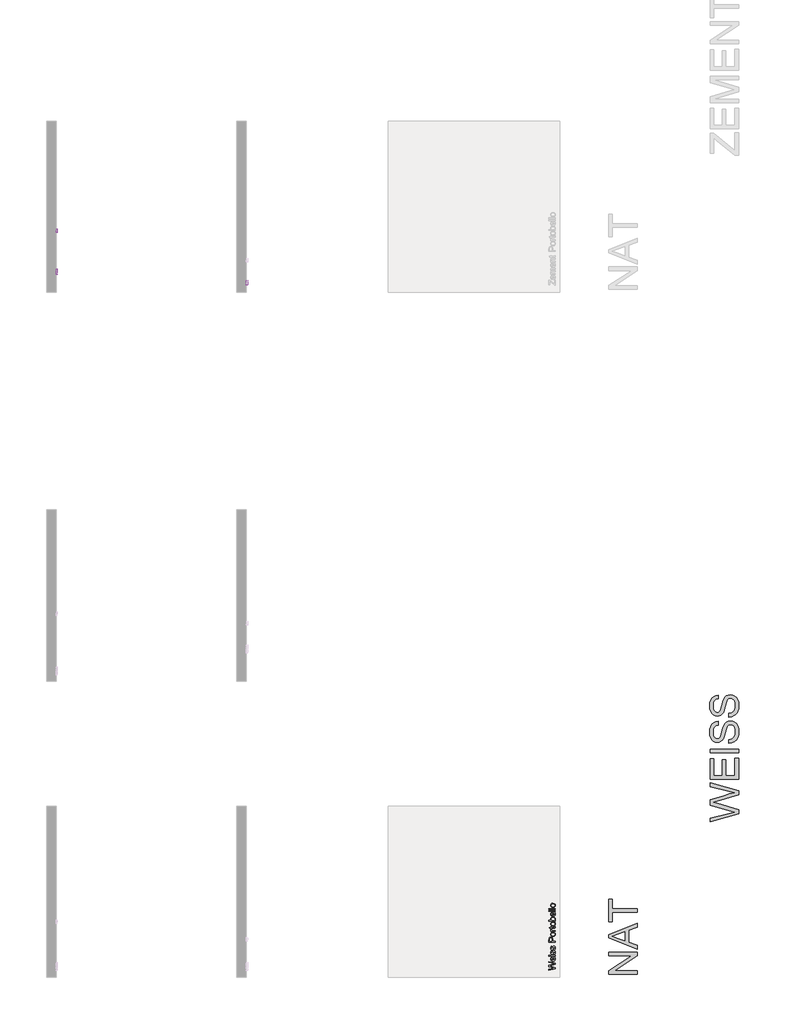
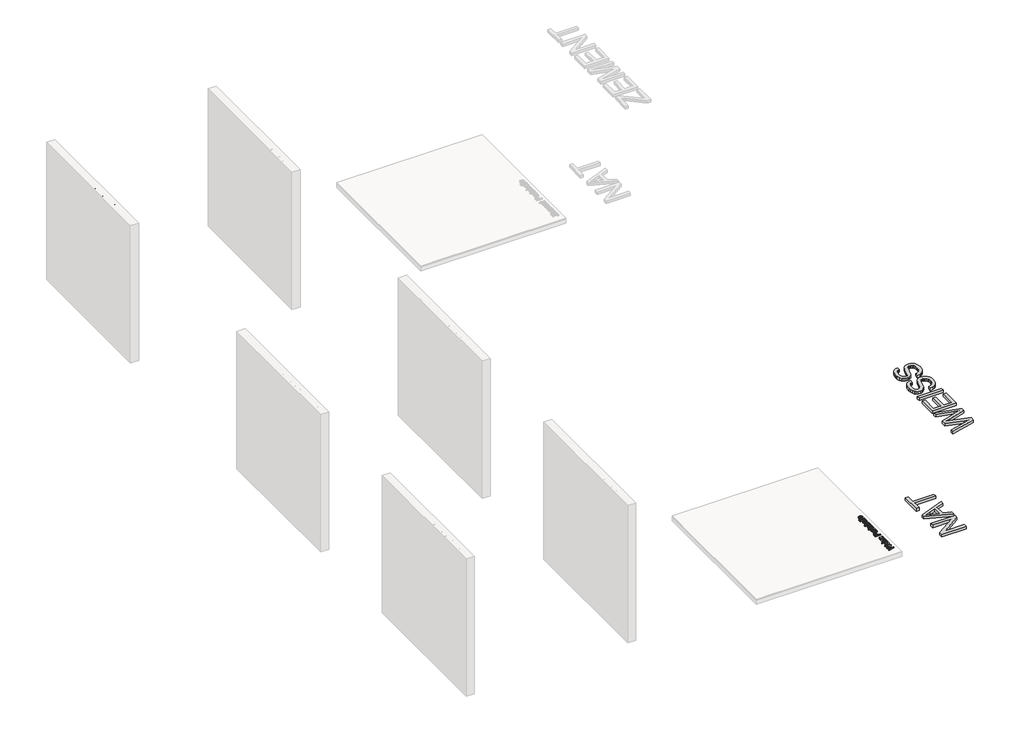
# One storey, part 9 of 12: 7 proxies.
"""IFC4 building model written with IfcOpenShell, lengths in millimetres."""

from ifc_helpers import new_model, si_unit, frame, origin, origin_with_axes, place, context, project, spatial, polyline, outline, extrude, element, save

model = new_model("IFC4")

# Units and contexts
model_context = context("Model", 3, world=origin())
ifc_project = project(units=[si_unit("LENGTHUNIT", "METRE", prefix="MILLI")], contexts=[model_context])

# Site, building, storey
site = spatial("IfcSite", under=ifc_project)
building = spatial("IfcBuilding", under=site)
storey = spatial("IfcBuildingStorey", under=building, Name="PORTOBELLO - SHOWROOM", Elevation=0.0)

# Proxies
placement = place(None, origin())
element("IfcBuildingElementProxy", 1, Name="10mm Arial", ObjectType="10mm Arial", at=placement, inside=storey, context=model_context, shape_type="SweptSolid", body=[
    extrude(outline(polyline([(12674.0162318, 2518.9109306), (12674.0162318, 2531.9339532), (12725.3970838, 2594.8417744), (12735.1582194, 2606.8102019), (12680.2947512, 2606.8102019), (12680.2947512, 2619.3672407), (12750.9280943, 2619.3672407), (12750.9280943, 2606.8102019), (12694.6912, 2537.9672179), (12689.3936992, 2531.4679693), (12752.4977241, 2531.4679693), (12752.4977241, 2518.9109306), (12674.0162318, 2518.9109306)])), frame((34348.7766485, 0.0, 0.0), z_axis=(1.0, 0.0, 0.0), x_axis=(0.0, 1.0, 0.0)), (0.0, 0.0, 1.0), 20.0),
    extrude(outline(polyline([(12816.705395, 2540.8857484), (12829.0171791, 2539.3161186), (12824.5811354, 2530.0393609), (12817.5024727, 2523.1047853), (12807.9406065, 2518.7821719), (12796.0549524, 2517.3413007), (12781.3212785, 2519.8275699), (12769.9843816, 2527.2863773), (12762.7555004, 2539.2333451), (12760.3458734, 2555.1840953), (12762.7800259, 2571.67134), (12770.0824835, 2584.0015182), (12781.2660962, 2591.6902519), (12795.3437138, 2594.2531632), (12808.9829388, 2591.6963833), (12819.8814429, 2584.0260437), (12827.0275507, 2571.720391), (12829.4095866, 2555.2576717), (12829.3360102, 2551.8731573), (12772.9029121, 2551.8731573), (12775.0764816, 2542.4737723), (12780.125662, 2535.5637222), (12787.4127912, 2531.3146852), (12796.300207, 2529.8983395), (12808.6119911, 2532.5225644), (12816.705395, 2540.8857484)]), holes=[polyline([(12772.9029121, 2564.4301961), (12816.8525478, 2564.4301961), (12811.8248272, 2575.8100125), (12804.5039755, 2580.2245964), (12795.2946629, 2581.6961244), (12779.8313564, 2576.9994976), (12774.966117, 2571.5088588), (12772.9029121, 2564.4301961)])]), frame((34348.7766485, 0.0, 0.0), z_axis=(1.0, 0.0, 0.0), x_axis=(0.0, 1.0, 0.0)), (0.0, 0.0, 1.0), 20.0),
    extrude(outline(polyline([(12841.9666254, 2518.9109306), (12841.9666254, 2592.6835333), (12854.5236641, 2592.6835333), (12854.5236641, 2580.5434275), (12863.1566283, 2590.4885041), (12875.4438869, 2594.2531632), (12888.0254512, 2590.4149277), (12894.9416327, 2579.6605107), (12904.7395565, 2590.6050001), (12917.1126542, 2594.2531632), (12926.5518931, 2592.7356499), (12933.532454, 2588.1831103), (12937.8458703, 2580.4729168), (12939.2836758, 2569.4824422), (12939.2836758, 2518.9109306), (12926.726637, 2518.9109306), (12926.726637, 2564.0868396), (12925.5616774, 2574.5714764), (12921.3432972, 2579.7340871), (12914.1695983, 2581.6961244), (12901.821026, 2576.6684038), (12898.133009, 2570.1262357), (12896.90367, 2560.5551724), (12896.90367, 2518.9109306), (12884.3466312, 2518.9109306), (12884.3466312, 2565.4847911), (12881.4403634, 2577.6494225), (12871.9122198, 2581.6961244), (12862.617068, 2578.9983231), (12856.4366505, 2571.1011229), (12854.5236641, 2556.116063), (12854.5236641, 2518.9109306), (12841.9666254, 2518.9109306)])), frame((34348.7766485, 0.0, 0.0), z_axis=(1.0, 0.0, 0.0), x_axis=(0.0, 1.0, 0.0)), (0.0, 0.0, 1.0), 20.0),
    extrude(outline(polyline([(13009.7698661, 2540.8857484), (13022.0816502, 2539.3161186), (13017.6456065, 2530.0393609), (13010.5669437, 2523.1047853), (13001.0050776, 2518.7821719), (12989.1194234, 2517.3413007), (12974.3857495, 2519.8275699), (12963.0488527, 2527.2863773), (12955.8199715, 2539.2333451), (12953.4103444, 2555.1840953), (12955.844497, 2571.67134), (12963.1469546, 2584.0015182), (12974.3305672, 2591.6902519), (12988.4081849, 2594.2531632), (13002.0474099, 2591.6963833), (13012.945914, 2584.0260437), (13020.0920217, 2571.720391), (13022.4740577, 2555.2576717), (13022.4004813, 2551.8731573), (12965.9673832, 2551.8731573), (12968.1409527, 2542.4737723), (12973.190133, 2535.5637222), (12980.4772622, 2531.3146852), (12989.3646781, 2529.8983395), (13001.6764622, 2532.5225644), (13009.7698661, 2540.8857484)]), holes=[polyline([(12965.9673832, 2564.4301961), (13009.9170189, 2564.4301961), (13004.8892983, 2575.8100125), (12997.5684466, 2580.2245964), (12988.359134, 2581.6961244), (12972.8958274, 2576.9994976), (12968.0305881, 2571.5088588), (12965.9673832, 2564.4301961)])]), frame((34348.7766485, 0.0, 0.0), z_axis=(1.0, 0.0, 0.0), x_axis=(0.0, 1.0, 0.0)), (0.0, 0.0, 1.0), 20.0),
    extrude(outline(polyline([(13035.0310964, 2518.9109306), (13035.0310964, 2592.6835333), (13047.5881352, 2592.6835333), (13047.5881352, 2582.3828375), (13057.1898553, 2591.2855817), (13070.298717, 2594.2531632), (13082.15678, 2591.8619302), (13090.2501839, 2585.5834108), (13094.014843, 2576.3495727), (13094.6770306, 2564.2094669), (13094.6770306, 2518.9109306), (13082.1199918, 2518.9109306), (13082.1199918, 2562.5172097), (13080.6729893, 2573.627246), (13075.5594296, 2579.5010952), (13066.9387281, 2581.6961244), (13053.3148316, 2576.7665057), (13049.0198093, 2569.6234636), (13047.5881352, 2558.0535748), (13047.5881352, 2518.9109306), (13035.0310964, 2518.9109306)])), frame((34348.7766485, 0.0, 0.0), z_axis=(1.0, 0.0, 0.0), x_axis=(0.0, 1.0, 0.0)), (0.0, 0.0, 1.0), 20.0),
    extrude(outline(polyline([(13138.6266663, 2529.3833047), (13140.1962961, 2518.5430486), (13130.8030425, 2517.3413007), (13120.2816174, 2519.4259654), (13115.0331676, 2524.8951443), (13113.5125887, 2539.1444403), (13113.5125887, 2580.1264946), (13104.0948097, 2580.1264946), (13104.0948097, 2592.6835333), (13113.5125887, 2592.6835333), (13113.5125887, 2610.6116492), (13126.0696275, 2617.9938146), (13126.0696275, 2592.6835333), (13138.6266663, 2592.6835333), (13138.6266663, 2580.1264946), (13126.0696275, 2580.1264946), (13126.0696275, 2539.5123223), (13126.7318151, 2533.0375992), (13128.8777934, 2530.7444681), (13133.1574873, 2529.8983395), (13138.6266663, 2529.3833047)])), frame((34348.7766485, 0.0, 0.0), z_axis=(1.0, 0.0, 0.0), x_axis=(0.0, 1.0, 0.0)), (0.0, 0.0, 1.0), 20.0),
    extrude(outline(polyline([(13191.994081, 2518.9109306), (13191.994081, 2619.3672407), (13204.5511198, 2619.3672407), (13204.5511198, 2531.4679693), (13254.7792749, 2531.4679693), (13254.7792749, 2518.9109306), (13191.994081, 2518.9109306)])), frame((34348.7766485, 0.0, 0.0), z_axis=(1.0, 0.0, 0.0), x_axis=(0.0, 1.0, 0.0)), (0.0, 0.0, 1.0), 20.0),
    extrude(outline(polyline([(34368.7766485, 13279.8933524), (34368.7766485, 13267.3363136), (34348.7766485, 13267.3363136), (34348.7766485, 13279.8933524), (34368.7766485, 13279.8933524)])), frame((0.0, 0.0, 2606.8102019), z_axis=(0.0, 0.0, 1.0), x_axis=(1.0, 0.0, 0.0)), (0.0, 0.0, 1.0), 12.5570388),
    extrude(outline(polyline([(34368.7766485, 13279.8933524), (34368.7766485, 13267.3363136), (34348.7766485, 13267.3363136), (34348.7766485, 13279.8933524), (34368.7766485, 13279.8933524)])), frame((0.0, 0.0, 2518.9109306), z_axis=(0.0, 0.0, 1.0), x_axis=(1.0, 0.0, 0.0)), (0.0, 0.0, 1.0), 73.7726028),
    extrude(outline(polyline([(13298.7289106, 2518.9109306), (13298.7289106, 2592.6835333), (13311.2859493, 2592.6835333), (13311.2859493, 2582.3828375), (13320.8876694, 2591.2855817), (13333.9965312, 2594.2531632), (13345.8545941, 2591.8619302), (13353.947998, 2585.5834108), (13357.7126571, 2576.3495727), (13358.3748447, 2564.2094669), (13358.3748447, 2518.9109306), (13345.8178059, 2518.9109306), (13345.8178059, 2562.5172097), (13344.3708034, 2573.627246), (13339.2572437, 2579.5010952), (13330.6365423, 2581.6961244), (13317.0126457, 2576.7665057), (13312.7176234, 2569.6234636), (13311.2859493, 2558.0535748), (13311.2859493, 2518.9109306), (13298.7289106, 2518.9109306)])), frame((34348.7766485, 0.0, 0.0), z_axis=(1.0, 0.0, 0.0), x_axis=(0.0, 1.0, 0.0)), (0.0, 0.0, 1.0), 20.0),
    extrude(outline(polyline([(13427.2914051, 2540.8857484), (13439.6031893, 2539.3161186), (13435.1671455, 2530.0393609), (13428.0884828, 2523.1047853), (13418.5266166, 2518.7821719), (13406.6409625, 2517.3413007), (13391.9072886, 2519.8275699), (13380.5703918, 2527.2863773), (13373.3415106, 2539.2333451), (13370.9318835, 2555.1840953), (13373.366036, 2571.67134), (13380.6684936, 2584.0015182), (13391.8521063, 2591.6902519), (13405.929724, 2594.2531632), (13419.5689489, 2591.6963833), (13430.467453, 2584.0260437), (13437.6135608, 2571.720391), (13439.9955967, 2555.2576717), (13439.9220203, 2551.8731573), (13383.4889223, 2551.8731573), (13385.6624917, 2542.4737723), (13390.7116721, 2535.5637222), (13397.9988013, 2531.3146852), (13406.8862171, 2529.8983395), (13419.1980013, 2532.5225644), (13427.2914051, 2540.8857484)]), holes=[polyline([(13383.4889223, 2564.4301961), (13427.4385579, 2564.4301961), (13422.4108373, 2575.8100125), (13415.0899856, 2580.2245964), (13405.880673, 2581.6961244), (13390.4173665, 2576.9994976), (13385.5521271, 2571.5088588), (13383.4889223, 2564.4301961)])]), frame((34348.7766485, 0.0, 0.0), z_axis=(1.0, 0.0, 0.0), x_axis=(0.0, 1.0, 0.0)), (0.0, 0.0, 1.0), 20.0),
])
element("IfcBuildingElementProxy", 2, Name="10mm Arial", ObjectType="10mm Arial", at=placement, inside=storey, context=model_context, shape_type="SweptSolid", body=[
    extrude(outline(polyline([(42219.9517231, 1908.5020085), (42119.495413, 1881.1070626), (42119.495413, 1894.0565088), (42185.5179684, 1909.949011), (42205.8986309, 1914.8541043), (42187.8724131, 1920.1025541), (42119.495413, 1940.0172328), (42119.495413, 1958.6811127), (42169.0613804, 1973.1511378), (42205.8986309, 1983.9178175), (42186.1065796, 1988.675758), (42119.495413, 2004.715413), (42119.495413, 2017.6648592), (42219.9517231, 1990.2453878), (42219.9517231, 1976.8299578), (42142.4512495, 1952.7459498), (42131.6355188, 1949.3859609), (42144.6585414, 1945.6090391), (42219.9517231, 1923.6587467), (42219.9517231, 1908.5020085)])), frame((0.0, 0.0, 17.0), z_axis=(0.0, 0.0, 1.0), x_axis=(1.0, 0.0, 0.0)), (0.0, 0.0, 1.0), 20.0),
    extrude(outline(polyline([(42197.9769053, 2080.3029003), (42199.5465351, 2092.6146844), (42208.8232928, 2088.1786406), (42215.7578684, 2081.0999779), (42220.0804818, 2071.5381117), (42221.521353, 2059.6524576), (42219.0350838, 2044.9187837), (42211.5762764, 2033.5818869), (42199.6293086, 2026.3530057), (42183.6785584, 2023.9433786), (42167.1913136, 2026.3775311), (42154.8611354, 2033.6799887), (42147.1724017, 2044.8636014), (42144.6094905, 2058.9412191), (42147.1662704, 2072.580444), (42154.83661, 2083.4789482), (42167.1422627, 2090.6250559), (42183.604982, 2093.0070918), (42186.9894963, 2092.9335154), (42186.9894963, 2036.5004174), (42196.3888813, 2038.6739868), (42203.2989315, 2043.7231672), (42207.5479685, 2051.0102964), (42208.9643142, 2059.8977123), (42206.3400893, 2072.2094964), (42197.9769053, 2080.3029003)]), holes=[polyline([(42174.4324576, 2036.5004174), (42174.4324576, 2080.4500531), (42163.0526412, 2075.4223325), (42158.6380572, 2068.1014808), (42157.1665293, 2058.8921681), (42161.8631561, 2043.4288616), (42167.3537948, 2038.5636222), (42174.4324576, 2036.5004174)])]), frame((0.0, 0.0, 17.0), z_axis=(0.0, 0.0, 1.0), x_axis=(1.0, 0.0, 0.0)), (0.0, 0.0, 1.0), 20.0),
    extrude(outline(polyline([(42132.0524517, 2105.5641306), (42119.495413, 2105.5641306), (42119.495413, 2118.1211694), (42132.0524517, 2118.1211694), (42132.0524517, 2105.5641306)])), frame((0.0, 0.0, 17.0), z_axis=(0.0, 0.0, 1.0), x_axis=(1.0, 0.0, 0.0)), (0.0, 0.0, 1.0), 20.0),
    extrude(outline(polyline([(42219.9517231, 2105.5641306), (42146.1791203, 2105.5641306), (42146.1791203, 2118.1211694), (42219.9517231, 2118.1211694), (42219.9517231, 2105.5641306)])), frame((0.0, 0.0, 17.0), z_axis=(0.0, 0.0, 1.0), x_axis=(1.0, 0.0, 0.0)), (0.0, 0.0, 1.0), 20.0),
    extrude(outline(polyline([(42197.9769053, 2132.247838), (42196.4072754, 2144.8048768), (42205.7269526, 2150.6174123), (42208.9643142, 2163.9347405), (42205.9967328, 2176.7370339), (42199.0315003, 2180.9063632), (42193.3906431, 2176.7125085), (42189.809925, 2163.7875877), (42183.6662957, 2144.8784532), (42176.4925967, 2136.6256337), (42166.3635791, 2133.8174678), (42157.0071137, 2136.0738107), (42149.8579403, 2142.2297028), (42146.1423321, 2150.2127421), (42144.6094905, 2161.01621), (42147.0742999, 2176.2955755), (42153.7452267, 2186.0076602), (42165.0146785, 2190.3241423), (42166.5843083, 2177.7671035), (42159.6558641, 2173.0459512), (42157.1665293, 2161.9972287), (42159.5454995, 2149.9797502), (42165.0882549, 2146.3745066), (42168.7425494, 2147.87056), (42171.5139271, 2152.5549241), (42174.1872029, 2163.3706548), (42180.0978403, 2181.8015427), (42186.7932926, 2190.3609305), (42197.7071251, 2193.463402), (42209.7246036, 2189.8213702), (42218.4434069, 2179.3122079), (42221.521353, 2163.7630622), (42220.0375622, 2151.1017902), (42215.5861901, 2141.8618208), (42208.2162875, 2135.693666), (42197.9769053, 2132.247838)])), frame((0.0, 0.0, 17.0), z_axis=(0.0, 0.0, 1.0), x_axis=(1.0, 0.0, 0.0)), (0.0, 0.0, 1.0), 20.0),
    extrude(outline(polyline([(42197.9769053, 2202.8811811), (42196.4072754, 2215.4382198), (42205.7269526, 2221.2507553), (42208.9643142, 2234.5680836), (42205.9967328, 2247.370377), (42199.0315003, 2251.5397063), (42193.3906431, 2247.3458515), (42189.809925, 2234.4209308), (42183.6662957, 2215.5117962), (42176.4925967, 2207.2589768), (42166.3635791, 2204.4508109), (42157.0071137, 2206.7071538), (42149.8579403, 2212.8630459), (42146.1423321, 2220.8460852), (42144.6094905, 2231.6495531), (42147.0742999, 2246.9289186), (42153.7452267, 2256.6410033), (42165.0146785, 2260.9574854), (42166.5843083, 2248.4004466), (42159.6558641, 2243.6792943), (42157.1665293, 2232.6305717), (42159.5454995, 2220.6130932), (42165.0882549, 2217.0078497), (42168.7425494, 2218.5039031), (42171.5139271, 2223.1882672), (42174.1872029, 2234.0039978), (42180.0978403, 2252.4348858), (42186.7932926, 2260.9942736), (42197.7071251, 2264.0967451), (42209.7246036, 2260.4547133), (42218.4434069, 2249.945551), (42221.521353, 2234.3964053), (42220.0375622, 2221.7351333), (42215.5861901, 2212.4951639), (42208.2162875, 2206.3270091), (42197.9769053, 2202.8811811)])), frame((0.0, 0.0, 17.0), z_axis=(0.0, 0.0, 1.0), x_axis=(1.0, 0.0, 0.0)), (0.0, 0.0, 1.0), 20.0),
])
element("IfcBuildingElementProxy", 3, Name="10mm Arial", ObjectType="10mm Arial", at=placement, inside=storey, context=model_context, shape_type="SweptSolid", body=[
    extrude(outline(polyline([(42219.9517231, 2325.5248417), (42119.495413, 2325.5248417), (42119.495413, 2362.7544996), (42120.4519061, 2377.764085), (42125.148533, 2389.9655045), (42134.8606176, 2397.8749674), (42148.5580906, 2400.8670743), (42160.3977595, 2398.846789), (42170.2631283, 2392.7859331), (42176.9217924, 2381.452102), (42179.1413471, 2363.6128909), (42179.1413471, 2338.0818805), (42219.9517231, 2338.0818805), (42219.9517231, 2325.5248417)]), holes=[polyline([(42166.5843083, 2338.0818805), (42166.5843083, 2364.3486549), (42161.9735207, 2382.8408565), (42156.4246339, 2386.9427408), (42148.999549, 2388.3100355), (42138.6007512, 2385.0849367), (42132.9108431, 2376.6113881), (42132.0524517, 2364.0543493), (42132.0524517, 2338.0818805), (42166.5843083, 2338.0818805)])]), frame((0.0, 0.0, 17.0), z_axis=(0.0, 0.0, 1.0), x_axis=(1.0, 0.0, 0.0)), (0.0, 0.0, 1.0), 20.0),
    extrude(outline(polyline([(42183.0654217, 2413.4241131), (42165.2783273, 2416.1403085), (42152.7764708, 2424.2888947), (42146.6512356, 2434.3565986), (42144.6094905, 2446.4108653), (42147.0957596, 2459.6025005), (42154.5545671, 2470.139254), (42166.3973017, 2477.0462384), (42182.0353521, 2479.3485666), (42204.378052, 2475.2773392), (42217.0209299, 2463.4192762), (42221.521353, 2446.4108653), (42219.0442809, 2433.0598146), (42211.6130646, 2422.5353238), (42199.5220096, 2415.7019158), (42183.0654217, 2413.4241131)]), holes=[polyline([(42183.0408963, 2425.9811518), (42194.4053842, 2427.4342857), (42202.5018538, 2431.7936874), (42207.3486991, 2438.3542496), (42208.9643142, 2446.4108653), (42207.339502, 2454.4306928), (42202.4650656, 2460.9789923), (42194.2612971, 2465.338394), (42182.6484888, 2466.7915278), (42171.6150946, 2465.3291969), (42163.6289896, 2460.9422041), (42158.7821444, 2454.3847075), (42157.1665293, 2446.4108653), (42158.776013, 2438.3542496), (42163.6044642, 2431.7936874), (42171.6825397, 2427.4342857), (42183.0408963, 2425.9811518)])]), frame((0.0, 0.0, 17.0), z_axis=(0.0, 0.0, 1.0), x_axis=(1.0, 0.0, 0.0)), (0.0, 0.0, 1.0), 20.0),
    extrude(outline(polyline([(42219.9517231, 2493.4752352), (42146.1791203, 2493.4752352), (42146.1791203, 2504.4626441), (42157.0929529, 2504.4626441), (42147.0375117, 2512.2617424), (42144.6094905, 2520.1098917), (42148.4845142, 2532.7159814), (42159.7417032, 2528.5221266), (42157.1665293, 2519.6929587), (42159.6436014, 2512.5928362), (42166.5107319, 2508.0678877), (42181.1769608, 2506.032274), (42219.9517231, 2506.032274), (42219.9517231, 2493.4752352)])), frame((0.0, 0.0, 17.0), z_axis=(0.0, 0.0, 1.0), x_axis=(1.0, 0.0, 0.0)), (0.0, 0.0, 1.0), 20.0),
    extrude(outline(polyline([(42209.479349, 2567.247838), (42220.3196051, 2568.8174678), (42221.521353, 2559.4242142), (42219.4366883, 2548.9027892), (42213.9675093, 2543.6543394), (42199.7182134, 2542.1337604), (42158.7361591, 2542.1337604), (42158.7361591, 2532.7159814), (42148.4845142, 2532.7159814), (42146.1791203, 2532.7159814), (42146.1791203, 2542.1337604), (42128.2510044, 2542.1337604), (42120.8688391, 2554.6907992), (42146.1791203, 2554.6907992), (42146.1791203, 2567.247838), (42158.7361591, 2567.247838), (42158.7361591, 2554.6907992), (42199.3503314, 2554.6907992), (42205.8250545, 2555.3529868), (42208.1181856, 2557.4989651), (42208.9643142, 2561.778659), (42209.479349, 2567.247838)])), frame((0.0, 0.0, 17.0), z_axis=(0.0, 0.0, 1.0), x_axis=(1.0, 0.0, 0.0)), (0.0, 0.0, 1.0), 20.0),
    extrude(outline(polyline([(42183.0654217, 2576.6656171), (42165.2783273, 2579.3818125), (42152.7764708, 2587.5303987), (42146.6512356, 2597.5981026), (42144.6094905, 2609.6523693), (42147.0957596, 2622.8440045), (42154.5545671, 2633.380758), (42166.3973017, 2640.2877424), (42182.0353521, 2642.5900706), (42204.378052, 2638.5188432), (42217.0209299, 2626.6607802), (42221.521353, 2609.6523693), (42219.0442809, 2596.3013186), (42211.6130646, 2585.7768278), (42199.5220096, 2578.9434197), (42183.0654217, 2576.6656171)]), holes=[polyline([(42183.0408963, 2589.2226558), (42194.4053842, 2590.6757897), (42202.5018538, 2595.0351914), (42207.3486991, 2601.5957536), (42208.9643142, 2609.6523693), (42207.339502, 2617.6721968), (42202.4650656, 2624.2204963), (42194.2612971, 2628.5798979), (42182.6484888, 2630.0330318), (42171.6150946, 2628.5707009), (42163.6289896, 2624.1837081), (42158.7821444, 2617.6262115), (42157.1665293, 2609.6523693), (42158.776013, 2601.5957536), (42163.6044642, 2595.0351914), (42171.6825397, 2590.6757897), (42183.0408963, 2589.2226558)])]), frame((0.0, 0.0, 17.0), z_axis=(0.0, 0.0, 1.0), x_axis=(1.0, 0.0, 0.0)), (0.0, 0.0, 1.0), 20.0),
    extrude(outline(polyline([(42219.9517231, 2669.273778), (42219.9517231, 2656.7167392), (42119.495413, 2656.7167392), (42119.495413, 2669.273778), (42156.7495963, 2669.273778), (42147.644517, 2678.0661577), (42144.6094905, 2688.9922529), (42147.34408, 2701.5738172), (42155.0328137, 2711.3349528), (42166.9889785, 2717.3314293), (42181.9617757, 2719.5019331), (42198.724932, 2717.2547872), (42211.1961316, 2710.5133496), (42218.9400476, 2700.6203897), (42221.521353, 2688.9186765), (42218.1920209, 2677.753458), (42208.2040247, 2669.273778), (42219.9517231, 2669.273778)]), holes=[polyline([(42182.5503869, 2669.273778), (42200.1106208, 2672.7073433), (42206.7508908, 2679.2862996), (42208.9643142, 2687.839556), (42207.3333707, 2695.0868313), (42202.4405401, 2701.2795116), (42194.3164794, 2705.5285486), (42182.9918453, 2706.9448943), (42171.5016643, 2705.5867966), (42163.4695741, 2701.5125035), (42158.7422905, 2695.5129613), (42157.1665293, 2688.3791163), (42158.7974728, 2681.131841), (42163.6903033, 2674.9391607), (42171.6672112, 2670.6901237), (42182.5503869, 2669.273778)])]), frame((0.0, 0.0, 17.0), z_axis=(0.0, 0.0, 1.0), x_axis=(1.0, 0.0, 0.0)), (0.0, 0.0, 1.0), 20.0),
    extrude(outline(polyline([(42197.9769053, 2785.2792338), (42199.5465351, 2797.5910179), (42208.8232928, 2793.1549742), (42215.7578684, 2786.0763114), (42220.0804818, 2776.5144453), (42221.521353, 2764.6287911), (42219.0350838, 2749.8951172), (42211.5762764, 2738.5582204), (42199.6293086, 2731.3293392), (42183.6785584, 2728.9197121), (42167.1913136, 2731.3538647), (42154.8611354, 2738.6563223), (42147.1724017, 2749.8399349), (42144.6094905, 2763.9175526), (42147.1662704, 2777.5567776), (42154.83661, 2788.4552817), (42167.1422627, 2795.6013894), (42183.604982, 2797.9834254), (42186.9894963, 2797.909849), (42186.9894963, 2741.4767509), (42196.3888813, 2743.6503204), (42203.2989315, 2748.6995007), (42207.5479685, 2755.9866299), (42208.9643142, 2764.8740458), (42206.3400893, 2777.1858299), (42197.9769053, 2785.2792338)]), holes=[polyline([(42174.4324576, 2741.4767509), (42174.4324576, 2785.4263866), (42163.0526412, 2780.398666), (42158.6380572, 2773.0778143), (42157.1665293, 2763.8685017), (42161.8631561, 2748.4051951), (42167.3537948, 2743.5399558), (42174.4324576, 2741.4767509)])]), frame((0.0, 0.0, 17.0), z_axis=(0.0, 0.0, 1.0), x_axis=(1.0, 0.0, 0.0)), (0.0, 0.0, 1.0), 20.0),
    extrude(outline(polyline([(42219.9517231, 2810.5404641), (42119.495413, 2810.5404641), (42119.495413, 2823.0975029), (42219.9517231, 2823.0975029), (42219.9517231, 2810.5404641)])), frame((0.0, 0.0, 17.0), z_axis=(0.0, 0.0, 1.0), x_axis=(1.0, 0.0, 0.0)), (0.0, 0.0, 1.0), 20.0),
    extrude(outline(polyline([(42219.9517231, 2841.933061), (42119.495413, 2841.933061), (42119.495413, 2854.4900998), (42219.9517231, 2854.4900998), (42219.9517231, 2841.933061)])), frame((0.0, 0.0, 17.0), z_axis=(0.0, 0.0, 1.0), x_axis=(1.0, 0.0, 0.0)), (0.0, 0.0, 1.0), 20.0),
    extrude(outline(polyline([(42183.0654217, 2870.1863983), (42165.2783273, 2872.9025937), (42152.7764708, 2881.0511799), (42146.6512356, 2891.1188838), (42144.6094905, 2903.1731505), (42147.0957596, 2916.3647857), (42154.5545671, 2926.9015392), (42166.3973017, 2933.8085237), (42182.0353521, 2936.1108518), (42204.378052, 2932.0396244), (42217.0209299, 2920.1815614), (42221.521353, 2903.1731505), (42219.0442809, 2889.8220998), (42211.6130646, 2879.297609), (42199.5220096, 2872.464201), (42183.0654217, 2870.1863983)]), holes=[polyline([(42183.0408963, 2882.743437), (42194.4053842, 2884.1965709), (42202.5018538, 2888.5559726), (42207.3486991, 2895.1165348), (42208.9643142, 2903.1731505), (42207.339502, 2911.192978), (42202.4650656, 2917.7412775), (42194.2612971, 2922.1006792), (42182.6484888, 2923.553813), (42171.6150946, 2922.0914821), (42163.6289896, 2917.7044893), (42158.7821444, 2911.1469928), (42157.1665293, 2903.1731505), (42158.776013, 2895.1165348), (42163.6044642, 2888.5559726), (42171.6825397, 2884.1965709), (42183.0408963, 2882.743437)])]), frame((0.0, 0.0, 17.0), z_axis=(0.0, 0.0, 1.0), x_axis=(1.0, 0.0, 0.0)), (0.0, 0.0, 1.0), 20.0),
])
element("IfcBuildingElementProxy", 4, Name="10mm Arial", ObjectType="10mm Arial", at=placement, inside=storey, context=model_context, shape_type="SweptSolid", body=[
    extrude(outline(polyline([(12681.8643811, 2518.9109306), (12681.8643811, 2619.3672407), (12719.094039, 2619.3672407), (12734.1036244, 2618.4107475), (12746.3050439, 2613.7141207), (12754.2145068, 2604.002036), (12757.2066137, 2590.3045631), (12755.1863284, 2578.4648942), (12749.1254725, 2568.5995254), (12737.7916414, 2561.9408613), (12719.9524303, 2559.7213066), (12694.4214198, 2559.7213066), (12694.4214198, 2518.9109306), (12681.8643811, 2518.9109306)]), holes=[polyline([(12694.4214198, 2572.2783453), (12720.6881943, 2572.2783453), (12739.1803959, 2576.889133), (12743.2822801, 2582.4380198), (12744.6495749, 2589.8631047), (12741.4244761, 2600.2619024), (12732.9509275, 2605.9518106), (12720.3938887, 2606.8102019), (12694.4214198, 2606.8102019), (12694.4214198, 2572.2783453)])]), frame((37348.7766485, 0.0, 0.0), z_axis=(1.0, 0.0, 0.0), x_axis=(0.0, 1.0, 0.0)), (0.0, 0.0, 1.0), 20.0),
    extrude(outline(polyline([(37368.7766485, 12785.4599509), (37368.7766485, 12772.9029121), (37348.7766485, 12772.9029121), (37348.7766485, 12785.4599509), (37368.7766485, 12785.4599509)])), frame((0.0, 0.0, 2518.9109306), z_axis=(0.0, 0.0, 1.0), x_axis=(1.0, 0.0, 0.0)), (0.0, 0.0, 1.0), 100.4563101),
    extrude(outline(polyline([(12851.3844044, 2528.3287096), (12839.2075104, 2519.8183728), (12825.7552921, 2517.3413007), (12815.2614582, 2518.8312228), (12807.5206079, 2523.300989), (12802.747339, 2530.0884118), (12801.1562494, 2538.5313036), (12803.5597451, 2548.4641175), (12809.8750526, 2555.6746046), (12818.6674323, 2559.794883), (12829.5322139, 2561.6833439), (12851.310828, 2565.9998259), (12851.3844044, 2568.7957291), (12847.9263137, 2578.0663554), (12834.0448997, 2581.6961244), (12821.3407082, 2579.280366), (12815.282918, 2570.7087155), (12802.7258792, 2572.2783453), (12808.15827, 2584.5410785), (12819.096628, 2591.7270401), (12835.6635805, 2594.2531632), (12850.8816324, 2592.0213457), (12859.4778083, 2586.4172767), (12863.3283065, 2577.8946771), (12863.9414432, 2566.9072682), (12863.9414432, 2551.2845461), (12864.5791053, 2529.4691438), (12867.0807029, 2518.9109306), (12854.5236641, 2518.9109306), (12851.3844044, 2528.3287096)]), holes=[polyline([(12851.3844044, 2553.4427872), (12831.1263692, 2549.592289), (12820.3229013, 2547.5566752), (12815.4300708, 2544.2457373), (12813.7132881, 2539.4142204), (12817.4534217, 2532.6206662), (12828.4285679, 2529.8983395), (12841.1327595, 2532.9027091), (12849.3242653, 2540.1745099), (12851.310828, 2549.8865946), (12851.3844044, 2553.4427872)])]), frame((37348.7766485, 0.0, 0.0), z_axis=(1.0, 0.0, 0.0), x_axis=(0.0, 1.0, 0.0)), (0.0, 0.0, 1.0), 20.0),
    extrude(outline(polyline([(12907.8910789, 2529.3833047), (12909.4607087, 2518.5430486), (12900.0674551, 2517.3413007), (12889.5460301, 2519.4259654), (12884.2975803, 2524.8951443), (12882.7770014, 2539.1444403), (12882.7770014, 2580.1264946), (12873.3592223, 2580.1264946), (12873.3592223, 2592.6835333), (12882.7770014, 2592.6835333), (12882.7770014, 2610.6116492), (12895.3340401, 2617.9938146), (12895.3340401, 2592.6835333), (12907.8910789, 2592.6835333), (12907.8910789, 2580.1264946), (12895.3340401, 2580.1264946), (12895.3340401, 2539.5123223), (12895.9962277, 2533.0375992), (12898.142206, 2530.7444681), (12902.4218999, 2529.8983395), (12907.8910789, 2529.3833047)])), frame((37348.7766485, 0.0, 0.0), z_axis=(1.0, 0.0, 0.0), x_axis=(0.0, 1.0, 0.0)), (0.0, 0.0, 1.0), 20.0),
    extrude(outline(polyline([(12912.5999684, 2518.9109306), (12912.5999684, 2530.7322053), (12955.9364675, 2580.1264946), (12943.1096486, 2580.1264946), (12915.7392281, 2580.1264946), (12915.7392281, 2592.6835333), (12973.8155324, 2592.6835333), (12973.8155324, 2582.0149555), (12935.3841267, 2538.1879471), (12929.4980147, 2531.4679693), (12944.0170908, 2531.4679693), (12975.3851623, 2531.4679693), (12975.3851623, 2518.9109306), (12912.5999684, 2518.9109306)])), frame((37348.7766485, 0.0, 0.0), z_axis=(1.0, 0.0, 0.0), x_axis=(0.0, 1.0, 0.0)), (0.0, 0.0, 1.0), 20.0),
])
element("IfcBuildingElementProxy", 5, Name="10mm Arial Narrow", ObjectType="10mm Arial Narrow", at=placement, inside=storey, context=model_context, shape_type="SweptSolid", body=[
    extrude(outline(polyline([(13503.9994402, 2518.9109306), (13503.9994402, 2619.6295343), (13535.2963249, 2619.6295343), (13551.5920264, 2617.7512136), (13563.0650125, 2608.2707704), (13567.3546909, 2591.2516616), (13565.5683825, 2579.175836), (13560.2094573, 2569.5494423), (13550.4656685, 2563.2481839), (13535.5247693, 2561.1477644), (13513.7464018, 2561.1477644), (13513.7464018, 2518.9109306), (13503.9994402, 2518.9109306)]), holes=[polyline([(13513.7464018, 2572.5192197), (13536.7177568, 2572.5192197), (13552.5819522, 2577.0500339), (13557.6077293, 2590.7186246), (13555.1329148, 2600.884401), (13549.155286, 2606.6843509), (13536.4893124, 2608.258079), (13513.7464018, 2608.258079), (13513.7464018, 2572.5192197)])]), frame((34348.7766485, 0.0, 0.0), z_axis=(1.0, 0.0, 0.0), x_axis=(0.0, 1.0, 0.0)), (0.0, 0.0, 1.0), 20.0),
    extrude(outline(polyline([(13575.477159, 2555.4620368), (13577.4316278, 2572.0528123), (13583.2950345, 2584.0048971), (13592.1536012, 2591.2294517), (13603.0935503, 2593.6376366), (13613.9065859, 2591.2294517), (13622.7905353, 2584.0048971), (13628.7300901, 2572.2431827), (13630.7099417, 2556.2235181), (13628.7649913, 2539.0616316), (13622.9301402, 2526.9191764), (13614.0810921, 2519.6946218), (13603.0935503, 2517.2864369), (13592.2329222, 2519.7009675), (13583.3584912, 2526.9445591), (13577.447492, 2538.9029896), (13575.477159, 2555.4620368)]), holes=[polyline([(13585.2241206, 2555.4874195), (13586.5281575, 2542.9356681), (13590.4402681, 2534.06441), (13596.2814648, 2528.7911515), (13603.3727602, 2527.0333986), (13610.0928333, 2528.8070156), (13615.7849066, 2534.1278668), (13619.6684617, 2543.014989), (13620.96298, 2555.4874195), (13619.6589432, 2568.0010968), (13615.7468326, 2576.8596635), (13609.9056358, 2582.1329221), (13602.8143405, 2583.8906749), (13596.0466747, 2582.1234035), (13590.3641199, 2576.8215894), (13586.5091204, 2567.9535042), (13585.2241206, 2555.4874195)])]), frame((34348.7766485, 0.0, 0.0), z_axis=(1.0, 0.0, 0.0), x_axis=(0.0, 1.0, 0.0)), (0.0, 0.0, 1.0), 20.0),
    extrude(outline(polyline([(13702.1876605, 2527.0333986), (13703.8121541, 2517.2864369), (13696.4511674, 2517.2864369), (13688.1764031, 2519.4058935), (13683.8613419, 2525.2058433), (13682.6937372, 2539.8516685), (13682.6937372, 2582.2661813), (13674.5712691, 2582.2661813), (13674.5712691, 2585.5151685), (13672.9467755, 2580.6416877), (13665.3827271, 2582.2661813), (13659.3035675, 2579.9436631), (13655.4327038, 2573.45838), (13653.4528522, 2558.0510734), (13653.4528522, 2518.9109306), (13643.7058905, 2518.9109306), (13643.7058905, 2592.013143), (13653.4528522, 2592.013143), (13653.4528522, 2582.3169467), (13659.6969995, 2591.4039579), (13666.0934431, 2593.6376366), (13674.5712691, 2592.013143), (13682.6937372, 2592.013143), (13682.6937372, 2608.258079), (13692.4406988, 2616.3805471), (13692.4406988, 2592.013143), (13702.1876605, 2592.013143), (13702.1876605, 2582.2661813), (13692.4406988, 2582.2661813), (13692.4406988, 2537.6179898), (13693.303711, 2529.6224353), (13697.9233647, 2527.0333986), (13702.1876605, 2527.0333986)])), frame((34348.7766485, 0.0, 0.0), z_axis=(1.0, 0.0, 0.0), x_axis=(0.0, 1.0, 0.0)), (0.0, 0.0, 1.0), 20.0),
    extrude(outline(polyline([(13708.6856349, 2555.4620368), (13710.6401038, 2572.0528123), (13716.5035104, 2584.0048971), (13725.3620771, 2591.2294517), (13736.3020263, 2593.6376366), (13747.1150618, 2591.2294517), (13755.9990113, 2584.0048971), (13761.938566, 2572.2431827), (13763.9184176, 2556.2235181), (13761.9734672, 2539.0616316), (13756.1386162, 2526.9191764), (13747.289568, 2519.6946218), (13736.3020263, 2517.2864369), (13725.4413981, 2519.7009675), (13716.5669672, 2526.9445591), (13710.655968, 2538.9029896), (13708.6856349, 2555.4620368)]), holes=[polyline([(13718.4325966, 2555.4874195), (13719.7366334, 2542.9356681), (13723.648744, 2534.06441), (13729.4899407, 2528.7911515), (13736.5812361, 2527.0333986), (13743.3013093, 2528.8070156), (13748.9933826, 2534.1278668), (13752.8769376, 2543.014989), (13754.171456, 2555.4874195), (13752.8674191, 2568.0010968), (13748.9553085, 2576.8596635), (13743.1141118, 2582.1329221), (13736.0228164, 2583.8906749), (13729.2551507, 2582.1234035), (13723.5725959, 2576.8215894), (13719.7175964, 2567.9535042), (13718.4325966, 2555.4874195)])]), frame((34348.7766485, 0.0, 0.0), z_axis=(1.0, 0.0, 0.0), x_axis=(0.0, 1.0, 0.0)), (0.0, 0.0, 1.0), 20.0),
    extrude(outline(polyline([(13786.6613281, 2518.9109306), (13776.9143665, 2518.9109306), (13776.9143665, 2619.6295343), (13786.6613281, 2619.6295343), (13786.6613281, 2584.2206502), (13794.0603889, 2591.302427), (13803.2616222, 2593.6376366), (13816.1433489, 2589.4367976), (13825.4207303, 2576.7073672), (13828.898162, 2556.0204564), (13826.965903, 2539.566113), (13821.169126, 2527.3633739), (13812.7960036, 2519.8056712), (13803.1347086, 2517.2864369), (13793.7938704, 2519.9008564), (13786.6613281, 2527.6679664), (13786.6613281, 2518.9109306)]), holes=[polyline([(13786.6613281, 2556.0204564), (13788.7427106, 2538.7729032), (13794.6314999, 2530.0412501), (13803.0839432, 2527.0333986), (13809.0266708, 2528.8228798), (13814.2650281, 2534.1913236), (13819.1512003, 2555.614333), (13814.4427071, 2577.0500339), (13809.1980041, 2582.1805147), (13802.8808815, 2583.8906749), (13796.9032527, 2582.1011937), (13791.6109571, 2576.73275), (13786.6613281, 2556.0204564)])]), frame((34348.7766485, 0.0, 0.0), z_axis=(1.0, 0.0, 0.0), x_axis=(0.0, 1.0, 0.0)), (0.0, 0.0, 1.0), 20.0),
    extrude(outline(polyline([(13880.8819574, 2541.6538411), (13890.6289191, 2540.0293475), (13886.9293887, 2530.1427809), (13881.1104019, 2523.02293), (13873.4067486, 2518.7205602), (13864.053219, 2517.2864369), (13852.459665, 2519.7009675), (13843.3155427, 2526.9445591), (13837.375988, 2538.7506933), (13835.3961364, 2554.8528517), (13837.3855065, 2571.5197753), (13843.3536168, 2583.7003046), (13852.3676526, 2591.1533036), (13863.4947993, 2593.6376366), (13874.1777485, 2591.2389702), (13882.9252658, 2584.0429712), (13888.7601169, 2572.3034666), (13890.7050672, 2556.2742836), (13890.6289191, 2553.0252963), (13845.143098, 2553.0252963), (13851.1461096, 2533.5821385), (13857.0761458, 2528.6705836), (13864.1801325, 2527.0333986), (13874.3586003, 2530.6885092), (13880.8819574, 2541.6538411)]), holes=[polyline([(13845.8030486, 2562.772258), (13880.8819574, 2562.772258), (13876.6176617, 2577.0373425), (13870.7923292, 2582.1773418), (13863.5709474, 2583.8906749), (13851.3618626, 2578.1795646), (13845.8030486, 2562.772258)])]), frame((34348.7766485, 0.0, 0.0), z_axis=(1.0, 0.0, 0.0), x_axis=(0.0, 1.0, 0.0)), (0.0, 0.0, 1.0), 20.0),
    extrude(outline(polyline([(34368.7766485, 13913.3718296), (34368.7766485, 13903.624868), (34348.7766485, 13903.624868), (34348.7766485, 13913.3718296), (34368.7766485, 13913.3718296)])), frame((0.0, 0.0, 2518.9109306), z_axis=(0.0, 0.0, 1.0), x_axis=(1.0, 0.0, 0.0)), (0.0, 0.0, 1.0), 100.7186038),
    extrude(outline(polyline([(34368.7766485, 13939.3637274), (34368.7766485, 13929.6167657), (34348.7766485, 13929.6167657), (34348.7766485, 13939.3637274), (34368.7766485, 13939.3637274)])), frame((0.0, 0.0, 2518.9109306), z_axis=(0.0, 0.0, 1.0), x_axis=(1.0, 0.0, 0.0)), (0.0, 0.0, 1.0), 100.7186038),
    extrude(outline(polyline([(13950.7351826, 2555.4620368), (13952.6896515, 2572.0528123), (13958.5530581, 2584.0048971), (13967.4116248, 2591.2294517), (13978.351574, 2593.6376366), (13989.1646096, 2591.2294517), (13998.048559, 2584.0048971), (14003.9881137, 2572.2431827), (14005.9679653, 2556.2235181), (14004.023015, 2539.0616316), (13998.1881639, 2526.9191764), (13989.3391157, 2519.6946218), (13978.351574, 2517.2864369), (13967.4909458, 2519.7009675), (13958.6165149, 2526.9445591), (13952.7055157, 2538.9029896), (13950.7351826, 2555.4620368)]), holes=[polyline([(13960.4821443, 2555.4874195), (13961.7861811, 2542.9356681), (13965.6982917, 2534.06441), (13971.5394885, 2528.7911515), (13978.6307838, 2527.0333986), (13985.350857, 2528.8070156), (13991.0429303, 2534.1278668), (13994.9264853, 2543.014989), (13996.2210037, 2555.4874195), (13994.9169668, 2568.0010968), (13991.0048562, 2576.8596635), (13985.1636595, 2582.1329221), (13978.0723641, 2583.8906749), (13971.3046984, 2582.1234035), (13965.6221436, 2576.8215894), (13961.7671441, 2567.9535042), (13960.4821443, 2555.4874195)])]), frame((34348.7766485, 0.0, 0.0), z_axis=(1.0, 0.0, 0.0), x_axis=(0.0, 1.0, 0.0)), (0.0, 0.0, 1.0), 20.0),
])
element("IfcBuildingElementProxy", 6, Name="450mm Arial", ObjectType="450mm Arial", at=placement, inside=storey, context=model_context, shape_type="SweptSolid", body=[
    extrude(outline(polyline([(43514.4179057, 1817.0488385), (43064.7617629, 1817.0488385), (43064.7617629, 1877.2079123), (43420.9956944, 2112.1356822), (43064.7617629, 2112.1356822), (43064.7617629, 2168.3427), (43514.4179057, 2168.3427), (43514.4179057, 2108.1836262), (43158.0741949, 1873.2558563), (43514.4179057, 1873.2558563), (43514.4179057, 1817.0488385)])), origin_with_axes(), (0.0, 0.0, 1.0), 50.0),
    extrude(outline(polyline([(43514.4179057, 2214.34024), (43064.7617629, 2393.8294474), (43064.7617629, 2441.6932361), (43514.4179057, 2621.1824435), (43514.4179057, 2561.791825), (43373.9003611, 2510.3053184), (43373.9003611, 2325.1075858), (43514.4179057, 2273.7308585), (43514.4179057, 2214.34024)]), holes=[polyline([(43317.6933432, 2345.7461001), (43317.6933432, 2489.7765834), (43207.1455562, 2449.26801), (43120.9687807, 2417.7613418), (43197.484975, 2389.7676122), (43317.6933432, 2345.7461001)])]), origin_with_axes(), (0.0, 0.0, 1.0), 50.0),
    extrude(outline(polyline([(43514.4179057, 2793.6457736), (43120.9687807, 2793.6457736), (43120.9687807, 2646.1023518), (43064.7617629, 2646.1023518), (43064.7617629, 2997.3962134), (43120.9687807, 2997.3962134), (43120.9687807, 2849.8527915), (43514.4179057, 2849.8527915), (43514.4179057, 2793.6457736)])), origin_with_axes(), (0.0, 0.0, 1.0), 50.0),
])
element("IfcBuildingElementProxy", 7, Name="450mm Arial", ObjectType="450mm Arial", at=placement, inside=storey, context=model_context, shape_type="SweptSolid", body=[
    extrude(outline(polyline([(45108.227034, 4345.3246225), (44658.5708912, 4222.701109), (44658.5708912, 4280.6645961), (44954.0968522, 4351.8016031), (45045.3234769, 4373.7574695), (44964.6356681, 4397.2502464), (44658.5708912, 4486.3910638), (44658.5708912, 4569.9331353), (44880.4349206, 4634.702941), (44962.7694194, 4662.4496671), (45045.3234769, 4682.8960676), (44956.7315562, 4704.193258), (44658.5708912, 4775.988941), (44658.5708912, 4833.9524281), (45108.227034, 4711.2191352), (45108.227034, 4651.1698408), (44761.3243457, 4543.366537), (44712.9116604, 4528.3267685), (44771.2044855, 4511.4207515), (45108.227034, 4413.1682496), (45108.227034, 4345.3246225)])), origin_with_axes(), (0.0, 0.0, 1.0), 50.0),
    extrude(outline(polyline([(45108.227034, 4890.159446), (44658.5708912, 4890.159446), (44658.5708912, 5213.3497986), (44714.777909, 5213.3497986), (44714.777909, 4946.3664638), (44848.2695764, 4946.3664638), (44848.2695764, 5199.2980442), (44904.4765943, 5199.2980442), (44904.4765943, 4946.3664638), (45052.0200161, 4946.3664638), (45052.0200161, 5220.3756759), (45108.227034, 5220.3756759), (45108.227034, 4890.159446)])), origin_with_axes(), (0.0, 0.0, 1.0), 50.0),
    extrude(outline(polyline([(45108.227034, 5311.7120799), (44658.5708912, 5311.7120799), (44658.5708912, 5367.9190977), (45108.227034, 5367.9190977), (45108.227034, 5311.7120799)])), origin_with_axes(), (0.0, 0.0, 1.0), 50.0),
    extrude(outline(polyline([(44953.6577349, 5459.2555017), (44953.6577349, 5515.4625196), (44984.8487875, 5521.9120553), (45009.9196424, 5533.5761093), (45029.8171463, 5551.7720336), (45045.4881459, 5577.81718), (45055.6564565, 5609.6531862), (45059.0458934, 5645.2216897), (45056.4798015, 5676.5362441), (45048.7815258, 5703.9536322), (45036.59602, 5726.1702244), (45020.5682376, 5741.8823913), (45002.1664771, 5751.2273569), (44982.8590371, 5754.3423454), (44964.0456041, 5752.0095347), (44947.7845406, 5745.0111023), (44933.9111776, 5730.7946788), (44922.260846, 5706.8078948), (44900.7989866, 5624.967403), (44886.5962856, 5571.2441425), (44873.0797054, 5536.8694893), (44854.1702155, 5508.8894821), (44831.25378, 5489.0605903), (44804.8244059, 5477.2455897), (44775.3761001, 5473.3072562), (44742.456023, 5478.178714), (44711.7589774, 5492.7930876), (44685.7412758, 5516.7661491), (44666.8592307, 5549.7136711), (44655.3735681, 5589.2616753), (44651.5450139, 5633.0361839), (44655.5519595, 5680.4608552), (44667.5727964, 5721.9574426), (44687.3605209, 5756.0439251), (44714.6681297, 5781.2382817), (44747.794043, 5797.1837297), (44785.0366813, 5803.5234861), (44785.0366813, 5747.3164682), (44767.101483, 5743.5565261), (44751.4990955, 5736.997211), (44738.2295188, 5727.638523), (44727.2927528, 5715.480462), (44718.7436874, 5700.2966082), (44712.637212, 5681.8605417), (44707.7520318, 5635.2317705), (44712.5823224, 5587.505206), (44718.6201856, 5569.2612533), (44727.0731942, 5554.7635203), (44748.3978294, 5535.8265856), (44760.5627516, 5531.0923519), (44773.7294102, 5529.514274), (44795.3284937, 5533.9877818), (44812.7010729, 5547.4083051), (44828.2348484, 5579.134532), (44844.0979618, 5639.1838265), (44859.1651751, 5701.1542592), (44872.3112501, 5738.643901), (44892.7027609, 5770.6857435), (44917.8696727, 5793.0395599), (44947.5375371, 5806.1719124), (44981.4319058, 5810.5493633), (45016.0810074, 5805.5132365), (45048.6717465, 5790.4048559), (45076.7203658, 5765.8417304), (45097.7431078, 5732.4413688), (45110.8754604, 5692.2758558), (45115.2529112, 5647.4172763), (45110.5323999, 5592.349219), (45096.3708661, 5547.0240775), (45085.7359934, 5527.8847371), (45072.7134202, 5510.9203997), (45057.3031465, 5496.1310654), (45039.5051723, 5483.516734), (44999.0514886, 5465.9245961), (44953.6577349, 5459.2555017)])), origin_with_axes(), (0.0, 0.0, 1.0), 50.0),
    extrude(outline(polyline([(44953.6577349, 5873.7822584), (44953.6577349, 5929.9892762), (44984.8487875, 5936.438812), (45009.9196424, 5948.102866), (45029.8171463, 5966.2987902), (45045.4881459, 5992.3439367), (45055.6564565, 6024.1799429), (45059.0458934, 6059.7484464), (45056.4798015, 6091.0630007), (45048.7815258, 6118.4803888), (45036.59602, 6140.6969811), (45020.5682376, 6156.409148), (45002.1664771, 6165.7541136), (44982.8590371, 6168.8691021), (44964.0456041, 6166.5362913), (44947.7845406, 6159.5378589), (44933.9111776, 6145.3214355), (44922.260846, 6121.3346515), (44900.7989866, 6039.4941597), (44886.5962856, 5985.7708992), (44873.0797054, 5951.3962459), (44854.1702155, 5923.4162387), (44831.25378, 5903.587347), (44804.8244059, 5891.7723464), (44775.3761001, 5887.8340128), (44742.456023, 5892.7054707), (44711.7589774, 5907.3198442), (44685.7412758, 5931.2929058), (44666.8592307, 5964.2404277), (44655.3735681, 6003.788432), (44651.5450139, 6047.5629405), (44655.5519595, 6094.9876118), (44667.5727964, 6136.4841992), (44687.3605209, 6170.5706818), (44714.6681297, 6195.7650384), (44747.794043, 6211.7104863), (44785.0366813, 6218.0502427), (44785.0366813, 6161.8432249), (44767.101483, 6158.0832828), (44751.4990955, 6151.5239677), (44738.2295188, 6142.1652797), (44727.2927528, 6130.0072187), (44718.7436874, 6114.8233649), (44712.637212, 6096.3872983), (44707.7520318, 6049.7585272), (44712.5823224, 6002.0319627), (44718.6201856, 5983.78801), (44727.0731942, 5969.290277), (44748.3978294, 5950.3533423), (44760.5627516, 5945.6191086), (44773.7294102, 5944.0410307), (44795.3284937, 5948.5145385), (44812.7010729, 5961.9350618), (44828.2348484, 5993.6612886), (44844.0979618, 6053.7105831), (44859.1651751, 6115.6810159), (44872.3112501, 6153.1706577), (44892.7027609, 6185.2125001), (44917.8696727, 6207.5663165), (44947.5375371, 6220.6986691), (44981.4319058, 6225.07612), (45016.0810074, 6220.0399931), (45048.6717465, 6204.9316126), (45076.7203658, 6180.3684871), (45097.7431078, 6146.9681254), (45110.8754604, 6106.8026124), (45115.2529112, 6061.944033), (45110.5323999, 6006.8759757), (45096.3708661, 5961.5508341), (45085.7359934, 5942.4114937), (45072.7134202, 5925.4471564), (45057.3031465, 5910.657822), (45039.5051723, 5898.0434907), (44999.0514886, 5880.4513528), (44953.6577349, 5873.7822584)])), origin_with_axes(), (0.0, 0.0, 1.0), 50.0),
])

save(model, "model.ifc")
